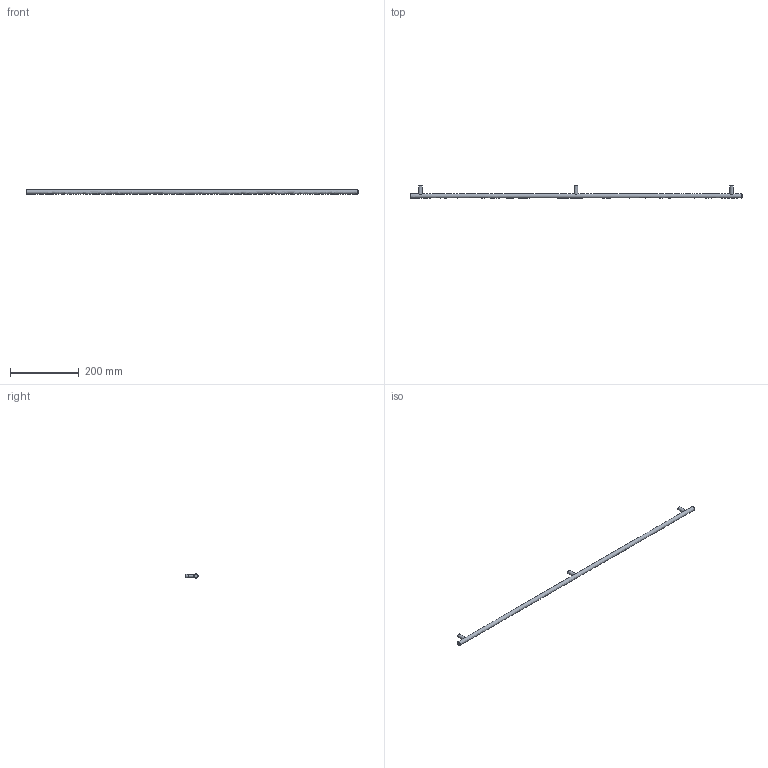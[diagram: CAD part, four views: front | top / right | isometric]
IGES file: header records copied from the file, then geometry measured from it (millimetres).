
Start section: Data from Parasolid IGES Translator 15.0.47, Copyright(c) 2006 Siemens P LM Software. All Rights Reserved.
Global section: file name: 9070747.igs; native system:  By UGS Corp.; preprocessor: XPlus GENERIC/IGES 3.0; author: Noname; organization: Noname; date: 20140123.103941; units: millimetre
Bounding box: 967 x 35 x 12 mm (x, y, z)
Surface area: 39205.2 mm2 (no closed solid volume)
Topology: 0 solids, 0 shells, 17 faces, 54 edges, 42 vertices
Faces by surface type: revolution 9, extrusion 8
